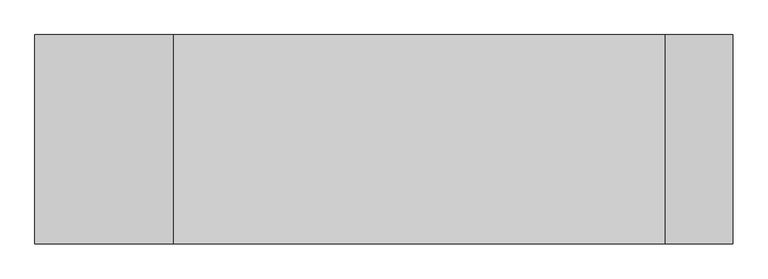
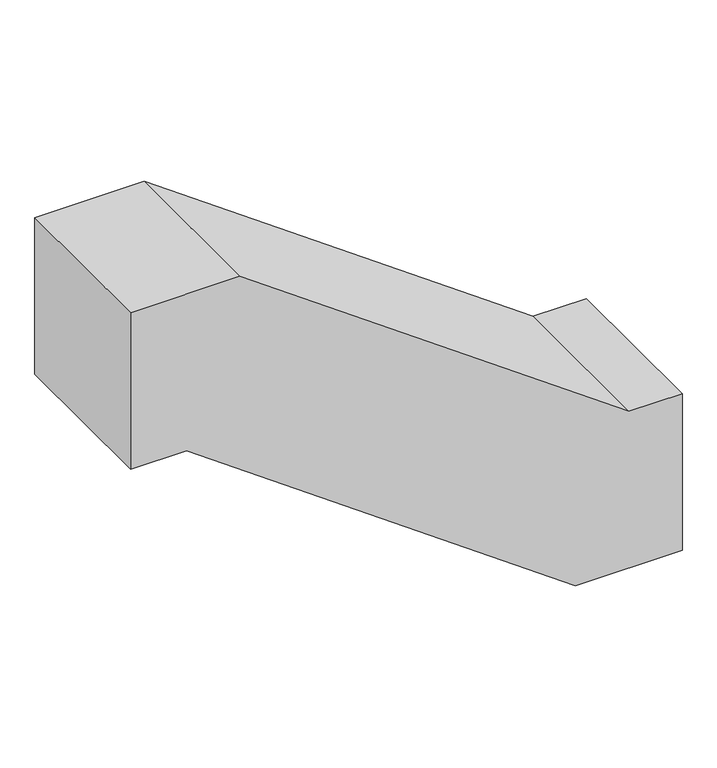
"""IFC4 building model written with IfcOpenShell, lengths in millimetres: duct fitting geometry, BL_УткаВоздуховодов_Прямоугольная : BL_УткаВоздуховодов_Прямоугольная."""

from ifc_helpers import new_model, si_unit, frame, origin, place, context, project, spatial, polyline, outline, extrude, source, transform, mapped, element, save


def duct_fitting_626d83c1(model_context):
    return source(origin(), model_context, "Body", "SweptSolid", [
        extrude(outline(polyline([(-150.0, 0.0), (-150.0, 101.7994324), (-655.113589, 806.5994324), (-655.113589, 1000.0), (-355.113589, 1000.0), (-355.113589, 903.0005676), (150.0, 198.2005676), (150.0, 0.0), (-150.0, 0.0)])), frame((0.0, -150.0, 0.0), z_axis=(0.0, 1.0, 0.0), x_axis=(0.0, 0.0, 1.0)), (0.0, 0.0, 1.0), 300.0),
    ])


if __name__ == "__main__":
    model = new_model("IFC4")
    model_context = context("Model", 3, world=origin())
    ifc_project = project(units=[si_unit("LENGTHUNIT", "METRE", prefix="MILLI")], contexts=[model_context])
    site = spatial("IfcSite", under=ifc_project)
    building = spatial("IfcBuilding", under=site)
    placement = place(None, origin())
    duct_fitting_shape = duct_fitting_626d83c1(model_context)
    element("IfcDuctFitting", 1, ObjectType="BL_УткаВоздуховодов_Прямоугольная : BL_УткаВоздуховодов_Прямоугольная", at=placement, inside=building, context=model_context, shape_type="MappedRepresentation", body=[
        mapped(duct_fitting_shape, transform((0.0, 0.0, 0.0), x_axis=(1.0, 0.0, 0.0), y_axis=(0.0, 1.0, 0.0), z_axis=(0.0, 0.0, 1.0))),
    ])
    save(model, "model.ifc")
